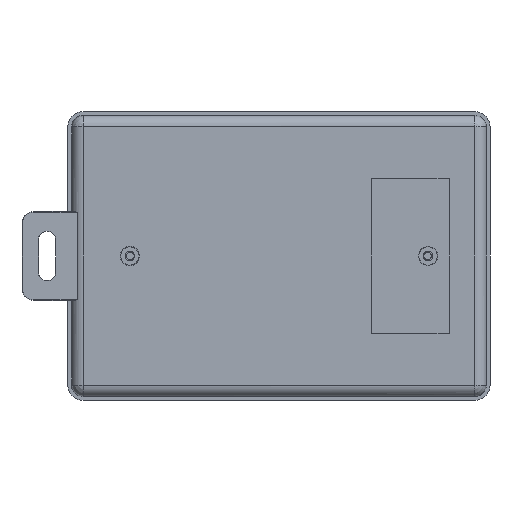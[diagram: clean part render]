
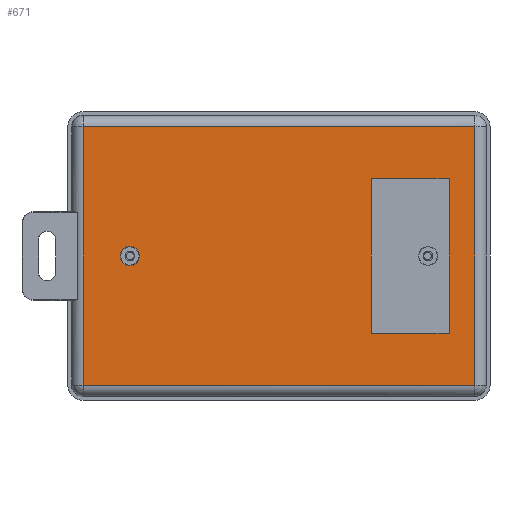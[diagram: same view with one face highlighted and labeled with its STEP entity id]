
A CAD part, front view. The second image highlights one B-rep face of the part: STEP entity #671.
In plain terms, the highlighted planar face has unit normal (0, -1, 0).
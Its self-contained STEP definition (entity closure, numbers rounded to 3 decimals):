
#81 = VECTOR ( 'NONE', #3910, 1000. ) ;
#515 = ORIENTED_EDGE ( 'NONE', *, *, #2741, .F. ) ;
#552 = FACE_OUTER_BOUND ( 'NONE', #1737, .T. ) ;
#611 = ORIENTED_EDGE ( 'NONE', *, *, #1965, .F. ) ;
#624 = EDGE_CURVE ( 'NONE', #3965, #4312, #5938, .T. ) ;
#648 = VERTEX_POINT ( 'NONE', #4007 ) ;
#652 = CARTESIAN_POINT ( 'NONE',  ( 44.35, -3., 20.1 ) ) ;
#671 = ADVANCED_FACE ( 'NONE', ( #2555, #2706, #552 ), #5867, .T. ) ;
#733 = CARTESIAN_POINT ( 'NONE',  ( 24.05, -3., 20.1 ) ) ;
#744 = CARTESIAN_POINT ( 'NONE',  ( 51.046, -3., 33.625 ) ) ;
#892 = CIRCLE ( 'NONE', #5025, 2.5 ) ;
#915 = CARTESIAN_POINT ( 'NONE',  ( 24.05, -3., -20.1 ) ) ;
#921 = AXIS2_PLACEMENT_3D ( 'NONE', #4751, #1852, #1928 ) ;
#1009 = LINE ( 'NONE', #4674, #3892 ) ;
#1155 = ORIENTED_EDGE ( 'NONE', *, *, #3070, .F. ) ;
#1287 = VECTOR ( 'NONE', #2062, 1000. ) ;
#1381 = VERTEX_POINT ( 'NONE', #1513 ) ;
#1386 = EDGE_LOOP ( 'NONE', ( #611, #2119 ) ) ;
#1390 = LINE ( 'NONE', #4278, #3481 ) ;
#1448 = ORIENTED_EDGE ( 'NONE', *, *, #3158, .T. ) ;
#1513 = CARTESIAN_POINT ( 'NONE',  ( -51.046, -3., -33.621 ) ) ;
#1631 = DIRECTION ( 'NONE',  ( 0., -1., 0. ) ) ;
#1654 = EDGE_CURVE ( 'NONE', #2489, #5604, #2057, .T. ) ;
#1737 = EDGE_LOOP ( 'NONE', ( #3605, #2931, #4990, #1448 ) ) ;
#1848 = EDGE_CURVE ( 'NONE', #5604, #648, #1390, .T. ) ;
#1852 = DIRECTION ( 'NONE',  ( 0., -1., 0. ) ) ;
#1871 = DIRECTION ( 'NONE',  ( 1., 0., 0. ) ) ;
#1894 = LINE ( 'NONE', #3927, #81 ) ;
#1902 = LINE ( 'NONE', #4671, #2129 ) ;
#1928 = DIRECTION ( 'NONE',  ( 0., 0., -1. ) ) ;
#1965 = EDGE_CURVE ( 'NONE', #3011, #5071, #3629, .T. ) ;
#2057 = LINE ( 'NONE', #744, #4707 ) ;
#2062 = DIRECTION ( 'NONE',  ( 0., 0., 1. ) ) ;
#2105 = DIRECTION ( 'NONE',  ( 0., -1., 0. ) ) ;
#2119 = ORIENTED_EDGE ( 'NONE', *, *, #5237, .F. ) ;
#2129 = VECTOR ( 'NONE', #1871, 1000. ) ;
#2133 = CARTESIAN_POINT ( 'NONE',  ( -38.85, -3., 0. ) ) ;
#2186 = VERTEX_POINT ( 'NONE', #733 ) ;
#2214 = LINE ( 'NONE', #5046, #4207 ) ;
#2356 = DIRECTION ( 'NONE',  ( -1., 0., 0. ) ) ;
#2489 = VERTEX_POINT ( 'NONE', #2613 ) ;
#2539 = CARTESIAN_POINT ( 'NONE',  ( 24.05, -3., 20.1 ) ) ;
#2555 = FACE_BOUND ( 'NONE', #3026, .T. ) ;
#2607 = CARTESIAN_POINT ( 'NONE',  ( -51.05, -3., 33.625 ) ) ;
#2613 = CARTESIAN_POINT ( 'NONE',  ( 51.046, -3., -33.621 ) ) ;
#2706 = FACE_BOUND ( 'NONE', #1386, .T. ) ;
#2741 = EDGE_CURVE ( 'NONE', #3962, #3965, #1902, .T. ) ;
#2814 = CARTESIAN_POINT ( 'NONE',  ( 44.35, -3., -20.1 ) ) ;
#2931 = ORIENTED_EDGE ( 'NONE', *, *, #1848, .T. ) ;
#3011 = VERTEX_POINT ( 'NONE', #5297 ) ;
#3026 = EDGE_LOOP ( 'NONE', ( #1155, #3124, #4616, #515 ) ) ;
#3070 = EDGE_CURVE ( 'NONE', #2186, #3962, #3970, .T. ) ;
#3109 = CARTESIAN_POINT ( 'NONE',  ( 44.35, -3., 20.1 ) ) ;
#3124 = ORIENTED_EDGE ( 'NONE', *, *, #5383, .F. ) ;
#3158 = EDGE_CURVE ( 'NONE', #1381, #2489, #1894, .T. ) ;
#3289 = DIRECTION ( 'NONE',  ( 0., 0., -1. ) ) ;
#3481 = VECTOR ( 'NONE', #2356, 1000. ) ;
#3605 = ORIENTED_EDGE ( 'NONE', *, *, #1654, .T. ) ;
#3629 = CIRCLE ( 'NONE', #921, 2.5 ) ;
#3892 = VECTOR ( 'NONE', #3289, 1000. ) ;
#3910 = DIRECTION ( 'NONE',  ( 1., 0., 0. ) ) ;
#3927 = CARTESIAN_POINT ( 'NONE',  ( -51.05, -3., -33.621 ) ) ;
#3962 = VERTEX_POINT ( 'NONE', #915 ) ;
#3965 = VERTEX_POINT ( 'NONE', #2814 ) ;
#3970 = LINE ( 'NONE', #2539, #5522 ) ;
#3993 = DIRECTION ( 'NONE',  ( 0., 0., -1. ) ) ;
#4006 = EDGE_CURVE ( 'NONE', #648, #1381, #1009, .T. ) ;
#4007 = CARTESIAN_POINT ( 'NONE',  ( -51.046, -3., 33.621 ) ) ;
#4033 = DIRECTION ( 'NONE',  ( 0., 0., 1. ) ) ;
#4207 = VECTOR ( 'NONE', #6003, 1000. ) ;
#4278 = CARTESIAN_POINT ( 'NONE',  ( -51.05, -3., 33.621 ) ) ;
#4312 = VERTEX_POINT ( 'NONE', #3109 ) ;
#4387 = DIRECTION ( 'NONE',  ( 0., 0., -1. ) ) ;
#4616 = ORIENTED_EDGE ( 'NONE', *, *, #624, .F. ) ;
#4671 = CARTESIAN_POINT ( 'NONE',  ( 24.05, -3., -20.1 ) ) ;
#4674 = CARTESIAN_POINT ( 'NONE',  ( -51.046, -3., 33.625 ) ) ;
#4707 = VECTOR ( 'NONE', #4033, 1000. ) ;
#4727 = CARTESIAN_POINT ( 'NONE',  ( -38.85, -3., 2.5 ) ) ;
#4751 = CARTESIAN_POINT ( 'NONE',  ( -38.85, -3., 0. ) ) ;
#4990 = ORIENTED_EDGE ( 'NONE', *, *, #4006, .T. ) ;
#5025 = AXIS2_PLACEMENT_3D ( 'NONE', #2133, #2105, #3993 ) ;
#5046 = CARTESIAN_POINT ( 'NONE',  ( 24.05, -3., 20.1 ) ) ;
#5071 = VERTEX_POINT ( 'NONE', #4727 ) ;
#5091 = CARTESIAN_POINT ( 'NONE',  ( 51.046, -3., 33.621 ) ) ;
#5237 = EDGE_CURVE ( 'NONE', #5071, #3011, #892, .T. ) ;
#5297 = CARTESIAN_POINT ( 'NONE',  ( -38.85, -3., -2.5 ) ) ;
#5383 = EDGE_CURVE ( 'NONE', #4312, #2186, #2214, .T. ) ;
#5522 = VECTOR ( 'NONE', #4387, 1000. ) ;
#5526 = AXIS2_PLACEMENT_3D ( 'NONE', #2607, #1631, #5892 ) ;
#5604 = VERTEX_POINT ( 'NONE', #5091 ) ;
#5867 = PLANE ( 'NONE',  #5526 ) ;
#5892 = DIRECTION ( 'NONE',  ( 0., 0., -1. ) ) ;
#5938 = LINE ( 'NONE', #652, #1287 ) ;
#6003 = DIRECTION ( 'NONE',  ( -1., 0., 0. ) ) ;
